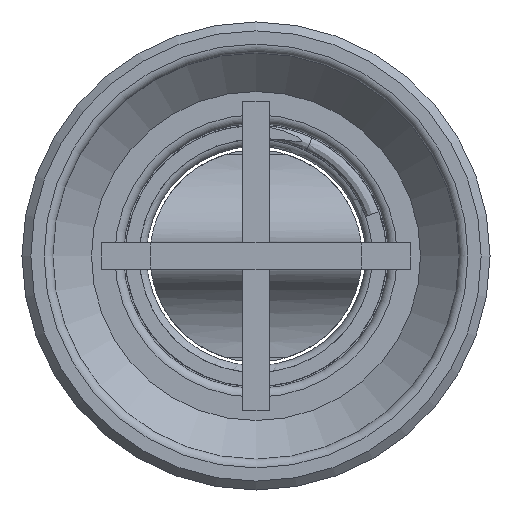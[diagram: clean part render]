
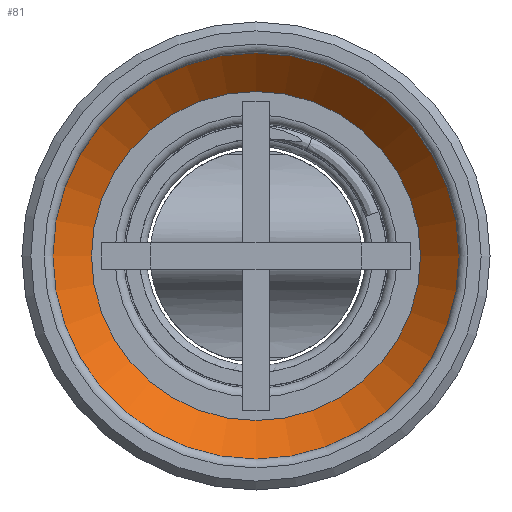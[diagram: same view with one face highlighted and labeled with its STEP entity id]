
A CAD part, front view. The second image highlights one B-rep face of the part: STEP entity #81.
In plain terms, the highlighted conical face has half-angle 45 degrees and reference radius 10.408 mm.
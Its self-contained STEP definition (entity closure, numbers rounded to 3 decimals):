
#81=ADVANCED_FACE('',(#1649,#1651),#1653,.F.);
#1649=FACE_OUTER_BOUND('',#1650,.T.);
#1650=EDGE_LOOP('',(#2610));
#1651=FACE_BOUND('',#1652,.T.);
#1652=EDGE_LOOP('',(#2611,#2612));
#1653=CONICAL_SURFACE('',#1654,10.408,0.785);
#1654=AXIS2_PLACEMENT_3D('',#1655,#1656,#1657);
#1655=CARTESIAN_POINT('',(0.,2.508,0.));
#1656=DIRECTION('',(0.,-1.,0.));
#1657=DIRECTION('',(1.,0.,0.));
#2610=ORIENTED_EDGE('',*,*,#3018,.T.);
#2611=ORIENTED_EDGE('',*,*,#3014,.F.);
#2612=ORIENTED_EDGE('',*,*,#3013,.F.);
#3013=EDGE_CURVE('',#3255,#3256,#3257,.T.);
#3014=EDGE_CURVE('',#3256,#3255,#3258,.T.);
#3018=EDGE_CURVE('',#3264,#3264,#3265,.T.);
#3255=VERTEX_POINT('',#4533);
#3256=VERTEX_POINT('',#4534);
#3257=CIRCLE('',#4535,9.316);
#3258=CIRCLE('',#4539,9.316);
#3264=VERTEX_POINT('',#4557);
#3265=CIRCLE('',#4558,11.5);
#4533=CARTESIAN_POINT('',(9.316,3.6,0.));
#4534=CARTESIAN_POINT('',(-9.316,3.6,0.));
#4535=AXIS2_PLACEMENT_3D('',#4536,#4537,#4538);
#4536=CARTESIAN_POINT('',(0.,3.6,0.));
#4537=DIRECTION('',(0.,-1.,0.));
#4538=DIRECTION('',(1.,0.,0.));
#4539=AXIS2_PLACEMENT_3D('',#4540,#4541,#4542);
#4540=CARTESIAN_POINT('',(0.,3.6,0.));
#4541=DIRECTION('',(0.,-1.,0.));
#4542=DIRECTION('',(-1.,0.,0.));
#4557=CARTESIAN_POINT('',(11.5,1.416,0.));
#4558=AXIS2_PLACEMENT_3D('',#4559,#4560,#4561);
#4559=CARTESIAN_POINT('',(0.,1.416,0.));
#4560=DIRECTION('',(0.,-1.,0.));
#4561=DIRECTION('',(1.,0.,0.));
